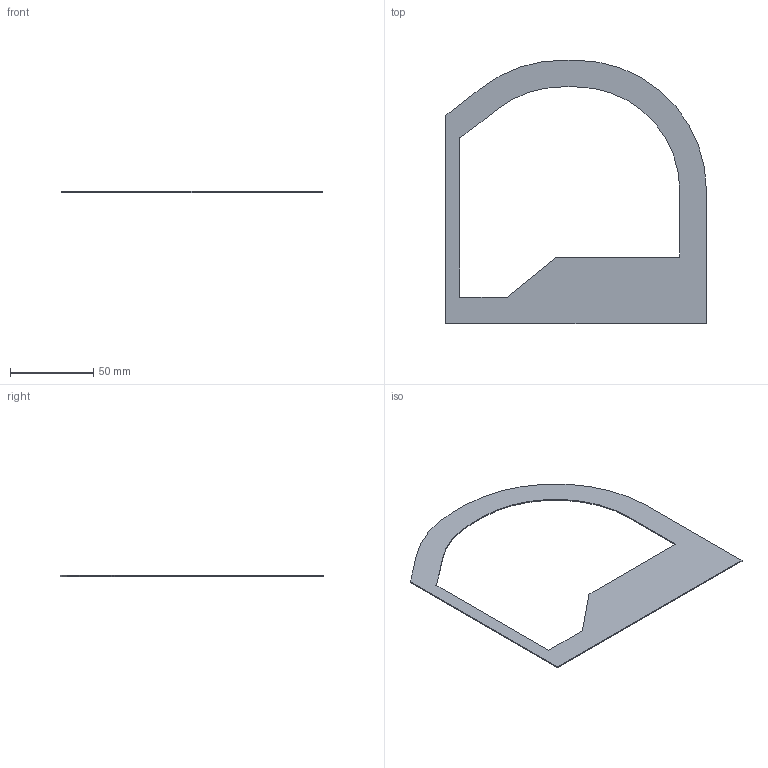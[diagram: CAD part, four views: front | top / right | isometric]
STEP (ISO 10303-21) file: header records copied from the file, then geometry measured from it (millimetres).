
FILE_DESCRIPTION(('STEP AP203'), '1');
FILE_NAME('鸆摠鍙 2', '', ('UNSPECIFIED'), ('UNSPECIFIED'), 'ASCON STEP Converter 1.3', 'ASCON Math Kernel', '');
FILE_SCHEMA(('CONFIG_CONTROL_DESIGN'));
Length unit declared in the file: millimetre
Bounding box: 156.44 x 158 x 0.6 mm (x, y, z)
Volume: 5763.7 mm3; surface area: 19826.5 mm2
Topology: 1 solids, 1 shells, 20 faces, 54 edges, 36 vertices
Faces by surface type: plane 14, cylinder 6
Entity records: 838 total; most frequent: CARTESIAN_POINT 111, DIRECTION 108, ORIENTED_EDGE 108, EDGE_CURVE 54, LINE 42, VECTOR 42, VERTEX_POINT 36, AXIS2_PLACEMENT_3D 33
